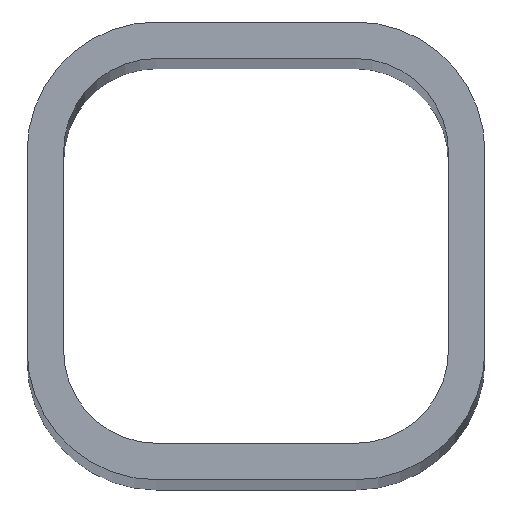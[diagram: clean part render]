
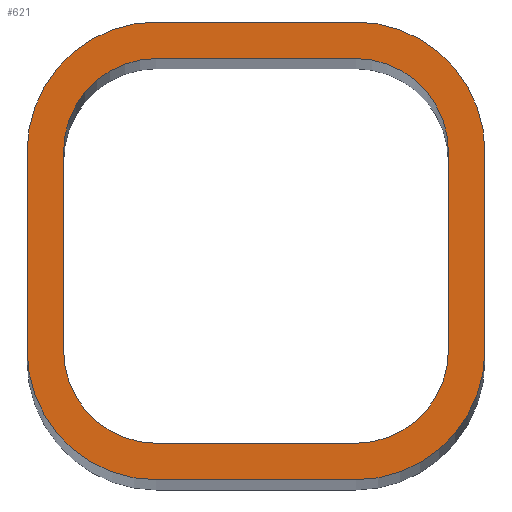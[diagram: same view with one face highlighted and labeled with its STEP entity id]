
A CAD part, top view. The second image highlights one B-rep face of the part: STEP entity #621.
In plain terms, the highlighted planar face has unit normal (0, 0, 1).
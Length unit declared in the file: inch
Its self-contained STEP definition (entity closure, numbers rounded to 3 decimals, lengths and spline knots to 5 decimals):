
#6 = AXIS2_PLACEMENT_3D ( 'NONE', #504, #500, #509 ) ;
#24 = VECTOR ( 'NONE', #353, 39.37008 ) ;
#27 = CIRCLE ( 'NONE', #50, 0.19063 ) ;
#29 = VECTOR ( 'NONE', #447, 39.37008 ) ;
#45 = AXIS2_PLACEMENT_3D ( 'NONE', #456, #457, #458 ) ;
#46 = VECTOR ( 'NONE', #459, 39.37008 ) ;
#47 = CIRCLE ( 'NONE', #45, 0.26563 ) ;
#48 = AXIS2_PLACEMENT_3D ( 'NONE', #450, #451, #452 ) ;
#49 = VECTOR ( 'NONE', #453, 39.37008 ) ;
#50 = AXIS2_PLACEMENT_3D ( 'NONE', #444, #445, #446 ) ;
#51 = CIRCLE ( 'NONE', #48, 0.26563 ) ;
#57 = AXIS2_PLACEMENT_3D ( 'NONE', #423, #424, #425 ) ;
#60 = CIRCLE ( 'NONE', #57, 0.19063 ) ;
#61 = AXIS2_PLACEMENT_3D ( 'NONE', #411, #412, #413 ) ;
#63 = CIRCLE ( 'NONE', #61, 0.26563 ) ;
#73 = VECTOR ( 'NONE', #404, 39.37008 ) ;
#77 = AXIS2_PLACEMENT_3D ( 'NONE', #360, #361, #362 ) ;
#79 = VECTOR ( 'NONE', #364, 39.37008 ) ;
#80 = AXIS2_PLACEMENT_3D ( 'NONE', #354, #355, #356 ) ;
#81 = VECTOR ( 'NONE', #358, 39.37008 ) ;
#82 = CIRCLE ( 'NONE', #80, 0.19063 ) ;
#83 = CIRCLE ( 'NONE', #77, 0.19063 ) ;
#93 = CIRCLE ( 'NONE', #94, 0.26563 ) ;
#94 = AXIS2_PLACEMENT_3D ( 'NONE', #347, #348, #349 ) ;
#101 = VECTOR ( 'NONE', #499, 39.37008 ) ;
#106 = ORIENTED_EDGE ( 'NONE', *, *, #603, .T. ) ;
#110 = ORIENTED_EDGE ( 'NONE', *, *, #573, .F. ) ;
#111 = ORIENTED_EDGE ( 'NONE', *, *, #602, .T. ) ;
#113 = ORIENTED_EDGE ( 'NONE', *, *, #601, .F. ) ;
#119 = ORIENTED_EDGE ( 'NONE', *, *, #575, .F. ) ;
#124 = ORIENTED_EDGE ( 'NONE', *, *, #570, .T. ) ;
#130 = ORIENTED_EDGE ( 'NONE', *, *, #606, .T. ) ;
#133 = ORIENTED_EDGE ( 'NONE', *, *, #572, .T. ) ;
#134 = ORIENTED_EDGE ( 'NONE', *, *, #619, .F. ) ;
#140 = ORIENTED_EDGE ( 'NONE', *, *, #604, .T. ) ;
#142 = ORIENTED_EDGE ( 'NONE', *, *, #589, .T. ) ;
#144 = ORIENTED_EDGE ( 'NONE', *, *, #587, .F. ) ;
#145 = ORIENTED_EDGE ( 'NONE', *, *, #595, .F. ) ;
#149 = ORIENTED_EDGE ( 'NONE', *, *, #576, .F. ) ;
#153 = ORIENTED_EDGE ( 'NONE', *, *, #605, .T. ) ;
#156 = ORIENTED_EDGE ( 'NONE', *, *, #574, .F. ) ;
#202 = VERTEX_POINT ( 'NONE', #257 ) ;
#203 = VERTEX_POINT ( 'NONE', #234 ) ;
#207 = VERTEX_POINT ( 'NONE', #258 ) ;
#210 = VERTEX_POINT ( 'NONE', #260 ) ;
#212 = VERTEX_POINT ( 'NONE', #262 ) ;
#214 = VERTEX_POINT ( 'NONE', #264 ) ;
#215 = VERTEX_POINT ( 'NONE', #265 ) ;
#219 = VERTEX_POINT ( 'NONE', #269 ) ;
#220 = VERTEX_POINT ( 'NONE', #270 ) ;
#221 = VERTEX_POINT ( 'NONE', #271 ) ;
#222 = VERTEX_POINT ( 'NONE', #272 ) ;
#223 = VERTEX_POINT ( 'NONE', #273 ) ;
#224 = VERTEX_POINT ( 'NONE', #274 ) ;
#226 = VERTEX_POINT ( 'NONE', #276 ) ;
#230 = VERTEX_POINT ( 'NONE', #280 ) ;
#232 = VERTEX_POINT ( 'NONE', #282 ) ;
#234 = CARTESIAN_POINT ( 'NONE',  ( 0.47, 0.20437, 6. ) ) ;
#244 = EDGE_LOOP ( 'NONE', ( #134, #110, #144, #113, #156, #119, #149, #145 ) ) ;
#247 = EDGE_LOOP ( 'NONE', ( #106, #130, #142, #111, #153, #140, #124, #133 ) ) ;
#257 = CARTESIAN_POINT ( 'NONE',  ( 0.47, -0.20437, 6. ) ) ;
#258 = CARTESIAN_POINT ( 'NONE',  ( -0.20438, -0.47, 6. ) ) ;
#260 = CARTESIAN_POINT ( 'NONE',  ( -0.20438, -0.395, 6. ) ) ;
#262 = CARTESIAN_POINT ( 'NONE',  ( -0.20438, 0.47, 6. ) ) ;
#264 = CARTESIAN_POINT ( 'NONE',  ( -0.47, -0.20437, 6. ) ) ;
#265 = CARTESIAN_POINT ( 'NONE',  ( -0.395, -0.20437, 6. ) ) ;
#269 = CARTESIAN_POINT ( 'NONE',  ( 0.20438, 0.395, 6. ) ) ;
#270 = CARTESIAN_POINT ( 'NONE',  ( 0.395, -0.20437, 6. ) ) ;
#271 = CARTESIAN_POINT ( 'NONE',  ( 0.395, 0.20437, 6. ) ) ;
#272 = CARTESIAN_POINT ( 'NONE',  ( 0.20438, 0.47, 6. ) ) ;
#273 = CARTESIAN_POINT ( 'NONE',  ( -0.20438, 0.395, 6. ) ) ;
#274 = CARTESIAN_POINT ( 'NONE',  ( -0.47, 0.20437, 6. ) ) ;
#276 = CARTESIAN_POINT ( 'NONE',  ( -0.395, 0.20437, 6. ) ) ;
#280 = CARTESIAN_POINT ( 'NONE',  ( 0.20438, -0.47, 6. ) ) ;
#282 = CARTESIAN_POINT ( 'NONE',  ( 0.20438, -0.395, 6. ) ) ;
#344 = LINE ( 'NONE', #352, #24 ) ;
#345 = CARTESIAN_POINT ( 'NONE',  ( 0.395, 0.20437, 6. ) ) ;
#347 = CARTESIAN_POINT ( 'NONE',  ( 0.20438, -0.20437, 6. ) ) ;
#348 = DIRECTION ( 'NONE',  ( 0., 0., 1. ) ) ;
#349 = DIRECTION ( 'NONE',  ( 1., 0., 0. ) ) ;
#350 = LINE ( 'NONE', #345, #81 ) ;
#352 = CARTESIAN_POINT ( 'NONE',  ( 0.47, 0.20437, 6. ) ) ;
#353 = DIRECTION ( 'NONE',  ( 0., 1., 0. ) ) ;
#354 = CARTESIAN_POINT ( 'NONE',  ( -0.20438, 0.20437, 6. ) ) ;
#355 = DIRECTION ( 'NONE',  ( 0., 0., 1. ) ) ;
#356 = DIRECTION ( 'NONE',  ( 1., 0., 0. ) ) ;
#357 = CARTESIAN_POINT ( 'NONE',  ( -0.20438, -0.395, 6. ) ) ;
#358 = DIRECTION ( 'NONE',  ( 0., 1., 0. ) ) ;
#359 = LINE ( 'NONE', #357, #79 ) ;
#360 = CARTESIAN_POINT ( 'NONE',  ( 0.20438, -0.20437, 6. ) ) ;
#361 = DIRECTION ( 'NONE',  ( 0., 0., 1. ) ) ;
#362 = DIRECTION ( 'NONE',  ( 1., 0., 0. ) ) ;
#364 = DIRECTION ( 'NONE',  ( 1., 0., 0. ) ) ;
#396 = LINE ( 'NONE', #403, #73 ) ;
#403 = CARTESIAN_POINT ( 'NONE',  ( 0.20438, 0.395, 6. ) ) ;
#404 = DIRECTION ( 'NONE',  ( -1., 0., 0. ) ) ;
#411 = CARTESIAN_POINT ( 'NONE',  ( -0.20438, 0.20437, 6. ) ) ;
#412 = DIRECTION ( 'NONE',  ( 0., 0., 1. ) ) ;
#413 = DIRECTION ( 'NONE',  ( 1., 0., 0. ) ) ;
#423 = CARTESIAN_POINT ( 'NONE',  ( -0.20438, -0.20437, 6. ) ) ;
#424 = DIRECTION ( 'NONE',  ( 0., 0., 1. ) ) ;
#425 = DIRECTION ( 'NONE',  ( 1., 0., 0. ) ) ;
#435 = CARTESIAN_POINT ( 'NONE',  ( -0.47, -0.20437, 6. ) ) ;
#440 = LINE ( 'NONE', #435, #29 ) ;
#442 = LINE ( 'NONE', #443, #49 ) ;
#443 = CARTESIAN_POINT ( 'NONE',  ( -0.20438, -0.47, 6. ) ) ;
#444 = CARTESIAN_POINT ( 'NONE',  ( 0.20438, 0.20437, 6. ) ) ;
#445 = DIRECTION ( 'NONE',  ( 0., 0., 1. ) ) ;
#446 = DIRECTION ( 'NONE',  ( 1., 0., 0. ) ) ;
#447 = DIRECTION ( 'NONE',  ( 0., -1., 0. ) ) ;
#448 = LINE ( 'NONE', #449, #46 ) ;
#449 = CARTESIAN_POINT ( 'NONE',  ( 0.20438, 0.47, 6. ) ) ;
#450 = CARTESIAN_POINT ( 'NONE',  ( 0.20438, 0.20437, 6. ) ) ;
#451 = DIRECTION ( 'NONE',  ( 0., 0., 1. ) ) ;
#452 = DIRECTION ( 'NONE',  ( 1., 0., 0. ) ) ;
#453 = DIRECTION ( 'NONE',  ( 1., 0., 0. ) ) ;
#456 = CARTESIAN_POINT ( 'NONE',  ( -0.20438, -0.20437, 6. ) ) ;
#457 = DIRECTION ( 'NONE',  ( 0., 0., 1. ) ) ;
#458 = DIRECTION ( 'NONE',  ( 1., 0., 0. ) ) ;
#459 = DIRECTION ( 'NONE',  ( -1., 0., 0. ) ) ;
#472 = LINE ( 'NONE', #473, #101 ) ;
#473 = CARTESIAN_POINT ( 'NONE',  ( -0.395, -0.20437, 6. ) ) ;
#493 = FACE_BOUND ( 'NONE', #244, .T. ) ;
#499 = DIRECTION ( 'NONE',  ( 0., -1., 0. ) ) ;
#500 = DIRECTION ( 'NONE',  ( 0., 0., 1. ) ) ;
#504 = CARTESIAN_POINT ( 'NONE',  ( 0.20438, 0.20437, 6. ) ) ;
#505 = FACE_OUTER_BOUND ( 'NONE', #247, .T. ) ;
#507 = PLANE ( 'NONE',  #6 ) ;
#509 = DIRECTION ( 'NONE',  ( 1., 0., 0. ) ) ;
#570 = EDGE_CURVE ( 'NONE', #230, #202, #93, .T. ) ;
#572 = EDGE_CURVE ( 'NONE', #202, #203, #344, .T. ) ;
#573 = EDGE_CURVE ( 'NONE', #223, #226, #82, .T. ) ;
#574 = EDGE_CURVE ( 'NONE', #220, #221, #350, .T. ) ;
#575 = EDGE_CURVE ( 'NONE', #232, #220, #83, .T. ) ;
#576 = EDGE_CURVE ( 'NONE', #210, #232, #359, .T. ) ;
#587 = EDGE_CURVE ( 'NONE', #219, #223, #396, .T. ) ;
#589 = EDGE_CURVE ( 'NONE', #212, #224, #63, .T. ) ;
#595 = EDGE_CURVE ( 'NONE', #215, #210, #60, .T. ) ;
#601 = EDGE_CURVE ( 'NONE', #221, #219, #27, .T. ) ;
#602 = EDGE_CURVE ( 'NONE', #224, #214, #440, .T. ) ;
#603 = EDGE_CURVE ( 'NONE', #203, #222, #51, .T. ) ;
#604 = EDGE_CURVE ( 'NONE', #207, #230, #442, .T. ) ;
#605 = EDGE_CURVE ( 'NONE', #214, #207, #47, .T. ) ;
#606 = EDGE_CURVE ( 'NONE', #222, #212, #448, .T. ) ;
#619 = EDGE_CURVE ( 'NONE', #226, #215, #472, .T. ) ;
#621 = ADVANCED_FACE ( 'NONE', ( #505, #493 ), #507, .T. ) ;
